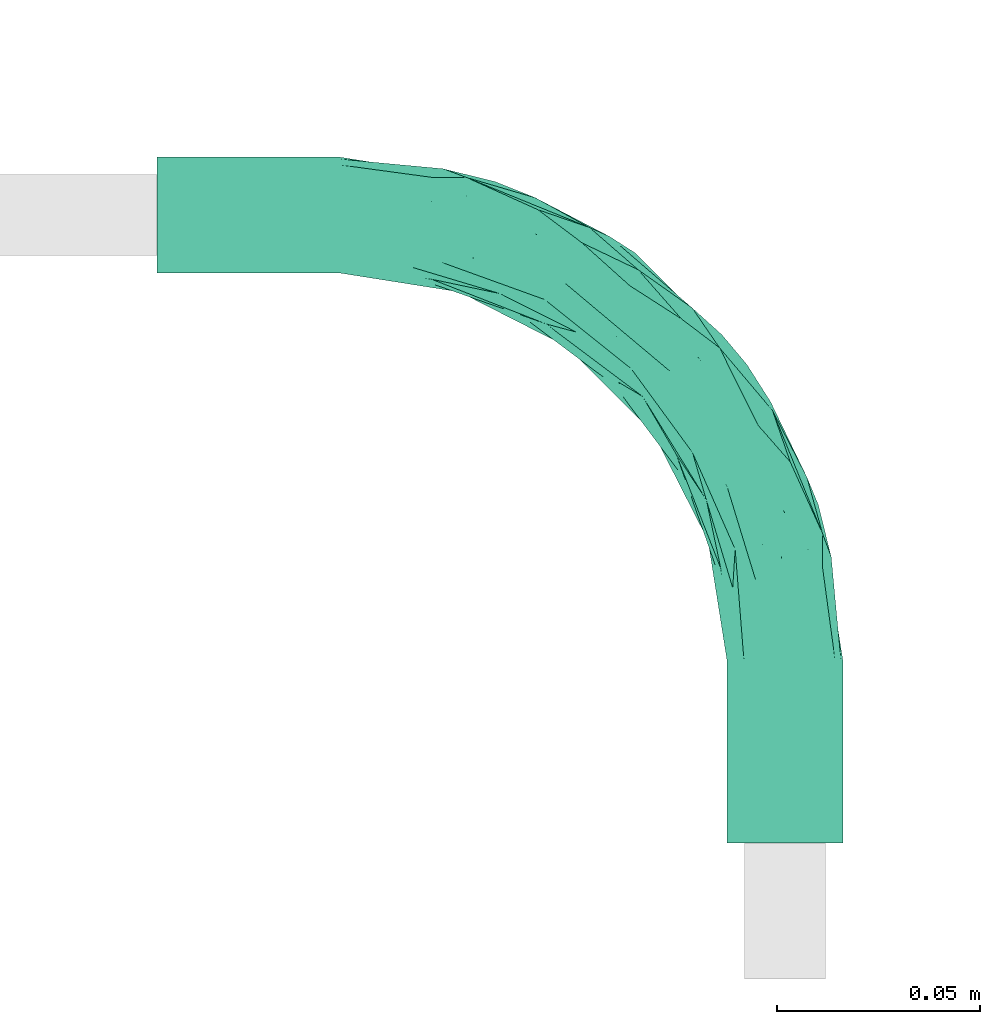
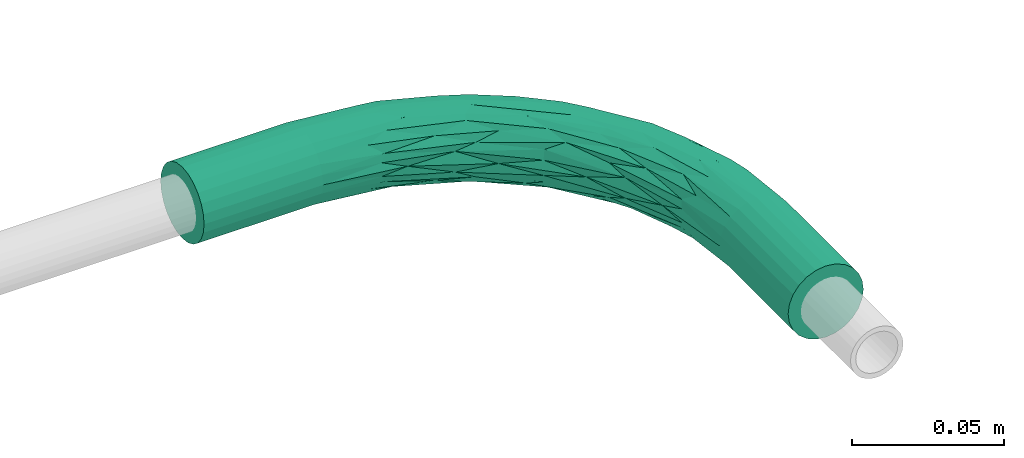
# One storey, part 6 of 51: 1 flow fitting.
"""IFC2X3 building model written with IfcOpenShell, lengths in millimetres."""

from ifc_helpers import new_model, entity, si_unit, converted_unit, derived_unit, direction, frame, origin_with_axes, place, context, subcontext, project, spatial, open_shell, surface_model, source, transform, mapped, type_object, element, save


model = new_model("IFC2X3")

# Units and contexts
model_context = context("Model", 3, precision=0.01, world=frame((0.0, 4.29681676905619e-09, 0.0)), true_north=direction((4.01073788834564e-13, 1.0)))
plan_context = context("Plan", 3, precision=0.01, world=frame((0.0, 4.29681676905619e-09, 0.0)), true_north=direction((4.01073788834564e-13, 1.0)))
body_context = subcontext(model_context, "Body", "Model", "MODEL_VIEW")
ifc_project = project(units=[converted_unit("PLANEANGLEUNIT", "DEGREE", entity("IfcPositiveLengthMeasure", 0.0174532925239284), si_unit("PLANEANGLEUNIT", "RADIAN"), dimensions=[0, 0, 0, 0, 0, 0, 0]), si_unit("AREAUNIT", "SQUARE_METRE"), si_unit("LENGTHUNIT", "METRE", prefix="MILLI"), si_unit("MASSUNIT", "GRAM", prefix="KILO"), si_unit("POWERUNIT", "WATT"), si_unit("PRESSUREUNIT", "PASCAL"), si_unit("FORCEUNIT", "NEWTON", prefix="KILO"), si_unit("ELECTRICVOLTAGEUNIT", "VOLT"), si_unit("ELECTRICCURRENTUNIT", "AMPERE"), si_unit("THERMODYNAMICTEMPERATUREUNIT", "DEGREE_CELSIUS"), si_unit("TIMEUNIT", "SECOND"), si_unit("VOLUMEUNIT", "CUBIC_METRE"), derived_unit("LINEARVELOCITYUNIT", [(si_unit("LENGTHUNIT", "METRE"), 1), (si_unit("TIMEUNIT", "SECOND"), -1)]), derived_unit("VOLUMETRICFLOWRATEUNIT", [(si_unit("VOLUMEUNIT", "CUBIC_METRE"), 1), (si_unit("TIMEUNIT", "SECOND"), -1)]), derived_unit("THERMALTRANSMITTANCEUNIT", [(si_unit("POWERUNIT", "WATT"), 1), (si_unit("THERMODYNAMICTEMPERATUREUNIT", "KELVIN"), -1), (si_unit("AREAUNIT", "SQUARE_METRE"), -1)]), derived_unit("SOUNDPRESSUREUNIT", [(si_unit("PRESSUREUNIT", "PASCAL"), 1)])], contexts=[model_context, plan_context])

# Site, building, storey
site_placement = place(None, frame((0.0, -4.29681676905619e-09, 0.0), z_axis=(0.0, 0.0, 1.0), x_axis=(1.0, 0.0, 0.0)))
site = spatial("IfcSite", under=ifc_project, at=site_placement, Name="ENGM", CompositionType="ELEMENT")
building_placement = place(site_placement, frame((0.0, 4.29681676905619e-09, 0.0), z_axis=(0.0, 0.0, 1.0), x_axis=(1.0, 0.0, 0.0)))
building = spatial("IfcBuilding", under=site, at=building_placement, Name="TI", CompositionType="ELEMENT")
storey_placement = place(building_placement, frame((0.0, 0.0, 210900.0), z_axis=(0.0, 0.0, 1.0), x_axis=(1.0, 0.0, 0.0)))
storey = spatial("IfcBuildingStorey", under=building, at=storey_placement, Name="Nivå F", CompositionType="ELEMENT", Elevation=210900.0)

# Flow fitting
cable_carrier_fitting_type = type_object("IfcCableCarrierFittingType", Name="Trekkerør, glatt bend", PredefinedType="BEND")
shared_shape = source(origin_with_axes(), body_context, "Body", "SurfaceModel", [
    surface_model("IfcShellBasedSurfaceModel", [(-154.55625, -13.78482, -3.69363), (-154.55625, 0.0, -14.27109), (-154.55625, -3.69363, -13.78482), (-154.55625, -12.35913, -7.13555), (-154.55625, -7.13555, -12.35913), (-154.55625, -10.09119, -10.09119), (-154.55625, 14.27109, 0.0), (-154.55625, 7.13555, -12.35913), (-154.55625, 12.35913, -7.13555), (-154.55625, 10.09119, -10.09119), (-154.55625, 3.69363, -13.78482), (-154.55625, 13.78482, -3.69363), (-154.55625, -14.27109, 0.0), (-154.55625, -13.78482, 3.69363), (-154.55625, 3.69363, 13.78482), (-154.55625, -7.13555, 12.35913), (-154.55625, -12.35913, 7.13555), (-154.55625, -10.09119, 10.09119), (-154.55625, 0.0, 14.27109), (-154.55625, -3.69363, 13.78482), (-154.55625, 12.35913, 7.13555), (-154.55625, 10.09119, 10.09119), (-154.55625, 13.78482, 3.69363), (-154.55625, 7.13555, 12.35913), (-109.53828, 13.78482, 3.69363), (-109.53828, 14.27109, 0.0), (-109.53828, 12.35913, 7.13555), (-109.53828, 7.13555, 12.35913), (-109.53828, 10.09119, 10.09119), (-109.53828, 3.69363, 13.78482), (-109.53828, 0.0, 14.27109), (-109.53828, -7.13555, 12.35913), (-109.53828, -3.69363, 13.78482), (-109.53828, -10.09119, 10.09119), (-109.53828, -13.78482, 3.69363), (-109.53828, -12.35913, 7.13555), (-109.53828, -14.27109, 0.0), (-109.53828, -13.78482, -3.69363), (-109.53828, -12.35913, -7.13555), (-109.53828, -7.13555, -12.35913), (-109.53828, -10.09119, -10.09119), (-109.53828, -3.69363, -13.78482), (-109.53828, 0.0, -14.27109), (-109.53828, 7.13555, -12.35913), (-109.53828, 3.69363, -13.78482), (-109.53828, 10.09119, -10.09119), (-109.53828, 13.78482, -3.69363), (-109.53828, 12.35913, -7.13555), (-5.52615, -80.75509, 14.17919), (-7.1534, -89.99414, 13.24855), (-3.69363, -109.53828, 13.78482), (-78.43143, 9.27777, 5.21969), (-86.74719, 9.26979, 8.53701), (-60.76988, 1.31586, 8.35584), (-28.15284, -38.55475, 14.18707), (-37.47603, -23.87443, 14.06701), (-54.57322, -16.38341, 14.20456), (-49.9274, -6.84288, 10.90618), (-78.33811, 4.70928, 11.16152), (-61.24691, -4.75102, 13.02092), (-84.10609, 11.40642, 2.49425), (-71.27908, 8.21143, 0.0), (-95.50078, 12.04777, 0.0), (-84.40829, -4.61635, 14.17552), (-6.52074, -51.84045, 11.43645), (-25.5172, -25.5172, 10.83717), (-21.30634, -35.06714, 12.98487), (-14.9351, -49.72791, 14.07022), (-22.8399, -22.8399, 5.72655), (-48.07555, -3.07814, 4.93607), (-36.13298, -13.4524, 8.61377), (-43.25505, -5.21821, 2.45459), (-61.42092, 4.26023, 2.69213), (-76.37759, -10.60152, 13.29307), (-84.26876, -11.72213, 11.45557), (-16.10152, -32.64981, 8.49548), (-91.7629, -12.84689, 8.81067), (-86.94002, 3.39666, 13.1113), (-78.89232, -2.16712, 14.11264), (-65.27277, -24.4813, 4.15685), (-80.0991, -18.9338, 0.0), (-53.54164, -32.46551, 0.0), (-87.03749, -15.77002, 5.64275), (-58.85951, -26.77111, 6.9074), (-70.11513, -19.34285, 8.96525), (-12.24312, -82.27842, 11.46622), (-10.09119, -109.53828, 10.09119), (-7.13555, -109.53828, 12.35913), (-88.43996, -16.36335, 2.74565), (3.69363, -109.53828, 13.78482), (7.13555, -109.53828, 12.35913), (-0.11486, -73.25678, 13.06442), (-41.06778, -41.06778, 6.49711), (-41.93843, -41.93843, 3.06688), (-12.35913, -109.53828, 7.13555), (-12.84689, -91.7629, 8.81067), (-3.51803, -45.96754, 2.3263), (-3.07814, -48.07555, 4.93607), (5.39094, -64.47541, 3.19158), (-23.06967, -23.06967, 0.0), (-36.76496, -9.37439, 0.0), (-0.81133, -84.32322, 14.11955), (0.0, -109.53828, 14.27109), (-41.69927, -29.72188, 13.44421), (13.78482, -109.53828, 3.69363), (9.27777, -78.43143, 5.21969), (12.35913, -109.53828, 7.13555), (-57.22502, -11.42573, 14.17543), (9.26979, -86.74719, 8.53701), (1.31586, -60.76988, 8.35584), (5.72038, -82.4285, 11.18319), (11.40642, -84.10609, 2.49425), (-59.15779, -20.7896, 12.14962), (-24.4813, -65.27277, 4.15685), (-32.46551, -53.54164, 0.0), (-18.9338, -80.0991, 0.0), (-14.27109, -109.53828, 0.0), (-16.36335, -88.43996, 2.74565), (-8.62571, -53.03293, 12.89354), (-15.77002, -87.03749, 5.64275), (-13.78482, -109.53828, 3.69363), (-35.02355, -44.66648, 9.39592), (-22.74629, -58.47709, 11.20332), (-37.83174, -37.83174, 11.72896), (-51.28798, -28.82677, 10.17947), (-14.20714, -66.91103, 13.32458), (10.09119, -109.53828, 10.09119), (12.04777, -95.50078, 0.0), (-26.77111, -58.85951, 6.9074), (-19.34285, -70.11513, 8.96525), (-14.02071, -58.08047, 14.23303), (-22.27171, -49.8428, 13.75381), (-38.19919, -17.37508, 12.43121), (-25.3167, -50.04426, 12.74411), (-58.12909, -18.65185, 13.32115), (-15.5265, -29.44086, 2.9254), (-54.02202, -0.58148, 0.0), (-9.37439, -36.76496, 0.0), (-0.58148, -54.02202, 0.0), (8.21143, -71.27908, 0.0), (14.27109, -109.53828, 0.0), (-82.27842, -12.24312, -11.46622), (-38.55475, -28.15284, -14.18707), (-23.87443, -37.47603, -14.06701), (-16.38341, -54.57322, -14.20456), (-91.7629, -12.84689, -8.81067), (-24.4813, -65.27277, -4.15685), (-87.03749, -15.77002, -5.64275), (-65.27277, -24.4813, -4.15685), (-88.43996, -16.36335, -2.74565), (9.27777, -78.43143, -5.21969), (13.78482, -109.53828, -3.69363), (12.35913, -109.53828, -7.13555), (-61.42092, 4.26023, -2.69213), (-84.10609, 11.40642, -2.49425), (-41.93843, -41.93843, -3.06688), (0.0, -109.53828, -14.27109), (-3.69363, -109.53828, -13.78482), (-4.61635, -84.40829, -14.17552), (-60.76988, 1.31586, -8.35584), (-78.43143, 9.27777, -5.21969), (-48.07555, -3.07814, -4.93607), (-51.84045, -6.52074, -11.43645), (-82.4285, 5.72038, -11.18319), (-86.74719, 9.26979, -8.53701), (-4.75102, -61.24691, -13.02092), (4.70928, -78.33811, -11.16152), (3.39666, -86.94002, -13.1113), (-15.5265, -29.44086, -2.9254), (-3.51803, -45.96754, -2.3263), (-73.25678, -0.11486, -13.06442), (11.40642, -84.10609, -2.49425), (-84.32322, -0.81133, -14.11955), (-11.42573, -57.22502, -14.17543), (1.31586, -60.76988, -8.35584), (-3.07814, -48.07555, -4.93607), (-89.99414, -7.1534, -13.24855), (-10.60152, -76.37759, -13.29307), (-6.84288, -49.9274, -10.90618), (-2.16712, -78.89232, -14.11264), (-25.5172, -25.5172, -10.83717), (-13.4524, -36.13298, -8.61377), (-16.36335, -88.43996, -2.74565), (-13.78482, -109.53828, -3.69363), (3.69363, -109.53828, -13.78482), (-19.34285, -70.11513, -8.96525), (-15.77002, -87.03749, -5.64275), (-26.77111, -58.85951, -6.9074), (-12.35913, -109.53828, -7.13555), (-80.75509, -5.52615, -14.17919), (9.26979, -86.74719, -8.53701), (10.09119, -109.53828, -10.09119), (-11.72213, -84.26876, -11.45557), (-7.13555, -109.53828, -12.35913), (-10.09119, -109.53828, -10.09119), (-35.06714, -21.30634, -12.98487), (-32.64981, -16.10152, -8.49548), (-41.06778, -41.06777, -6.49711), (-29.72188, -41.69927, -13.44421), (7.13555, -109.53828, -12.35913), (-66.91103, -14.20714, -13.32458), (-58.47709, -22.74629, -11.20332), (-22.8399, -22.8399, -5.72655), (-49.72791, -14.9351, -14.07022), (-37.83174, -37.83174, -11.72896), (-28.82677, -51.28798, -10.17947), (-44.66648, -35.02355, -9.39592), (-20.7896, -59.15779, -12.14962), (-43.25505, -5.21821, -2.45459), (-53.03293, -8.62571, -12.89354), (-12.84689, -91.7629, -8.81067), (-58.85951, -26.77111, -6.9074), (-70.11513, -19.34285, -8.96525), (-58.08047, -14.02071, -14.23303), (-49.8428, -22.27171, -13.75381), (-17.37508, -38.19919, -12.43121), (-50.04426, -25.3167, -12.74411), (-18.65185, -58.12909, -13.32115), (5.39094, -64.47541, -3.19158), (0.0, -154.55625, -14.27109), (13.78482, -154.55625, -3.69363), (-3.69363, -154.55625, -13.78482), (-7.13555, -154.55625, -12.35913), (-12.35913, -154.55625, -7.13555), (14.27109, -154.55625, 0.0), (-10.09119, -154.55625, -10.09119), (-14.27109, -154.55625, 0.0), (10.09119, -154.55625, -10.09119), (12.35913, -154.55625, -7.13555), (7.13555, -154.55625, -12.35913), (3.69363, -154.55625, -13.78482), (-13.78482, -154.55625, -3.69363), (-13.78482, -154.55625, 3.69363), (13.78482, -154.55625, 3.69363), (-12.35913, -154.55625, 7.13555), (-7.13555, -154.55625, 12.35913), (-10.09119, -154.55625, 10.09119), (-3.69363, -154.55625, 13.78482), (0.0, -154.55625, 14.27109), (12.35913, -154.55625, 7.13555), (10.09119, -154.55625, 10.09119), (3.69363, -154.55625, 13.78482), (7.13555, -154.55625, 12.35913)], [open_shell([[[0, 1, 2]], [[3, 2, 4]], [[3, 0, 2]], [[3, 4, 5]], [[1, 0, 6]], [[7, 8, 9]], [[7, 10, 1]], [[7, 11, 8]], [[7, 1, 11]], [[6, 11, 1]], [[0, 12, 6]], [[6, 13, 14]], [[15, 13, 16]], [[14, 13, 15]], [[15, 16, 17]], [[18, 15, 19]], [[20, 14, 21]], [[22, 6, 20]], [[21, 14, 23]], [[14, 20, 6]], [[15, 18, 14]], [[6, 12, 13]], [[24, 25, 22]], [[24, 20, 26]], [[27, 28, 23]], [[21, 28, 26]], [[29, 27, 14]], [[6, 22, 25]], [[22, 20, 24]], [[20, 21, 26]], [[21, 23, 28]], [[27, 23, 14]], [[14, 18, 29]], [[18, 30, 29]], [[31, 32, 15]], [[31, 17, 33]], [[34, 35, 13]], [[16, 35, 33]], [[36, 34, 12]], [[30, 19, 32]], [[19, 15, 32]], [[18, 19, 30]], [[15, 17, 31]], [[17, 16, 33]], [[35, 16, 13]], [[13, 12, 34]], [[37, 36, 0]], [[37, 3, 38]], [[39, 40, 4]], [[5, 40, 38]], [[41, 39, 2]], [[12, 0, 36]], [[0, 3, 37]], [[3, 5, 38]], [[5, 4, 40]], [[39, 4, 2]], [[2, 1, 41]], [[1, 42, 41]], [[43, 44, 7]], [[43, 9, 45]], [[46, 47, 11]], [[8, 47, 45]], [[25, 46, 6]], [[42, 10, 44]], [[10, 7, 44]], [[1, 10, 42]], [[7, 9, 43]], [[9, 8, 45]], [[47, 8, 11]], [[11, 6, 46]], [[48, 49, 50]], [[51, 52, 53]], [[54, 55, 56]], [[57, 58, 59]], [[60, 61, 62]], [[30, 32, 63]], [[28, 27, 58]], [[60, 62, 24]], [[64, 65, 66]], [[58, 52, 28]], [[66, 55, 67]], [[68, 69, 70]], [[69, 71, 72]], [[31, 73, 32]], [[51, 24, 26]], [[74, 31, 33]], [[70, 65, 75]], [[76, 33, 35]], [[77, 29, 78]], [[53, 69, 51]], [[79, 80, 81]], [[82, 83, 84]], [[85, 86, 87]], [[88, 34, 36]], [[82, 35, 34]], [[89, 90, 91]], [[92, 79, 93]], [[94, 86, 95]], [[29, 77, 27]], [[96, 97, 98]], [[71, 99, 100]], [[30, 78, 29]], [[101, 48, 102]], [[53, 58, 57]], [[103, 54, 56]], [[89, 101, 102]], [[104, 105, 106]], [[50, 49, 87]], [[55, 59, 107]], [[108, 106, 105]], [[109, 105, 97]], [[90, 110, 91]], [[57, 65, 70]], [[105, 104, 111]], [[73, 56, 63]], [[74, 84, 112]], [[113, 114, 115]], [[114, 113, 93]], [[30, 63, 78]], [[116, 117, 115]], [[102, 48, 50]], [[52, 26, 28]], [[118, 64, 66]], [[119, 120, 94]], [[119, 113, 117]], [[93, 81, 114]], [[121, 122, 123]], [[123, 124, 121]], [[85, 125, 122]], [[95, 86, 85]], [[64, 110, 109]], [[73, 31, 74]], [[126, 110, 90]], [[108, 126, 106]], [[59, 58, 77]], [[103, 112, 123]], [[109, 97, 75]], [[127, 111, 104]], [[34, 88, 82]], [[79, 92, 83]], [[113, 128, 92]], [[129, 119, 95]], [[130, 131, 125]], [[91, 67, 101]], [[129, 85, 122]], [[125, 85, 49]], [[91, 110, 64]], [[109, 110, 108]], [[66, 67, 118]], [[75, 65, 64]], [[73, 74, 112]], [[84, 74, 76]], [[107, 78, 63]], [[63, 32, 73]], [[130, 48, 101]], [[101, 89, 91]], [[55, 54, 67]], [[57, 132, 65]], [[56, 55, 107]], [[59, 55, 132]], [[125, 48, 130]], [[133, 122, 125]], [[103, 56, 134]], [[124, 123, 112]], [[73, 112, 134]], [[125, 131, 133]], [[72, 60, 51]], [[71, 69, 68]], [[135, 68, 97]], [[96, 135, 97]], [[76, 35, 82]], [[80, 79, 88]], [[120, 119, 117]], [[128, 113, 119]], [[81, 93, 79]], [[92, 93, 113]], [[27, 77, 58]], [[59, 77, 78]], [[26, 52, 51]], [[53, 52, 58]], [[126, 108, 110]], [[109, 108, 105]], [[53, 57, 70]], [[132, 66, 65]], [[53, 70, 69]], [[68, 70, 75]], [[68, 75, 97]], [[109, 75, 64]], [[87, 49, 85]], [[125, 49, 48]], [[121, 128, 129]], [[133, 123, 122]], [[122, 121, 129]], [[121, 124, 83]], [[92, 121, 83]], [[84, 124, 112]], [[133, 103, 123]], [[54, 103, 131]], [[133, 131, 103]], [[130, 54, 131]], [[130, 67, 54]], [[67, 130, 101]], [[82, 88, 79]], [[80, 88, 36]], [[120, 117, 116]], [[115, 117, 113]], [[66, 132, 55]], [[132, 57, 59]], [[62, 25, 24]], [[61, 60, 72]], [[51, 60, 24]], [[71, 100, 136]], [[69, 72, 51]], [[136, 72, 71]], [[99, 135, 137]], [[71, 135, 99]], [[96, 137, 135]], [[68, 135, 71]], [[138, 137, 96]], [[98, 111, 139]], [[136, 61, 72]], [[139, 138, 98]], [[139, 111, 127]], [[104, 140, 127]], [[105, 111, 98]], [[105, 98, 97]], [[138, 96, 98]], [[33, 76, 74]], [[84, 76, 82]], [[94, 95, 119]], [[129, 95, 85]], [[79, 83, 82]], [[84, 83, 124]], [[92, 128, 121]], [[129, 128, 119]], [[118, 91, 64]], [[91, 118, 67]], [[56, 107, 63]], [[78, 107, 59]], [[73, 134, 56]], [[134, 112, 103]], [[39, 141, 40]], [[142, 143, 144]], [[145, 40, 141]], [[146, 115, 114]], [[147, 148, 149]], [[150, 151, 152]], [[36, 149, 80]], [[153, 154, 61]], [[148, 81, 80]], [[81, 148, 155]], [[156, 157, 158]], [[38, 147, 37]], [[159, 160, 161]], [[162, 163, 159]], [[164, 47, 160]], [[165, 166, 167]], [[160, 46, 154]], [[168, 137, 169]], [[170, 43, 163]], [[171, 127, 151]], [[42, 44, 172]], [[143, 165, 173]], [[46, 160, 47]], [[170, 44, 43]], [[174, 175, 150]], [[47, 164, 45]], [[176, 39, 41]], [[177, 144, 158]], [[174, 166, 178]], [[156, 158, 179]], [[155, 114, 81]], [[178, 180, 181]], [[182, 183, 116]], [[156, 179, 184]], [[185, 186, 187]], [[183, 186, 188]], [[189, 176, 41]], [[190, 152, 191]], [[192, 193, 194]], [[162, 180, 195]], [[179, 167, 184]], [[45, 163, 43]], [[181, 180, 196]], [[155, 197, 146]], [[198, 142, 144]], [[199, 184, 167]], [[190, 191, 166]], [[141, 200, 201]], [[193, 177, 157]], [[181, 202, 175]], [[199, 166, 191]], [[203, 195, 143]], [[165, 178, 166]], [[204, 205, 206]], [[139, 127, 171]], [[42, 189, 41]], [[198, 207, 204]], [[190, 174, 150]], [[177, 193, 192]], [[168, 202, 208]], [[206, 201, 204]], [[189, 42, 172]], [[209, 162, 195]], [[194, 188, 210]], [[192, 185, 207]], [[38, 40, 145]], [[159, 161, 196]], [[62, 154, 46]], [[183, 182, 186]], [[146, 197, 187]], [[148, 211, 197]], [[212, 147, 145]], [[213, 214, 200]], [[170, 203, 172]], [[212, 141, 201]], [[200, 141, 176]], [[170, 163, 162]], [[159, 163, 164]], [[195, 203, 209]], [[196, 180, 162]], [[177, 192, 207]], [[185, 192, 210]], [[173, 179, 158]], [[158, 157, 177]], [[213, 189, 172]], [[172, 44, 170]], [[143, 142, 203]], [[178, 215, 180]], [[144, 143, 173]], [[165, 143, 215]], [[200, 189, 213]], [[216, 201, 200]], [[198, 144, 217]], [[205, 204, 207]], [[177, 207, 217]], [[200, 214, 216]], [[218, 171, 150]], [[168, 175, 202]], [[168, 208, 99]], [[153, 136, 208]], [[210, 188, 186]], [[115, 146, 182]], [[37, 147, 149]], [[211, 148, 147]], [[114, 155, 146]], [[197, 155, 148]], [[199, 167, 166]], [[165, 167, 179]], [[152, 190, 150]], [[174, 190, 166]], [[45, 164, 163]], [[159, 164, 160]], [[174, 178, 181]], [[215, 195, 180]], [[174, 181, 175]], [[202, 181, 196]], [[202, 196, 161]], [[159, 196, 162]], [[39, 176, 141]], [[200, 176, 189]], [[206, 211, 212]], [[216, 204, 201]], [[201, 206, 212]], [[206, 205, 187]], [[197, 206, 187]], [[185, 205, 207]], [[216, 198, 204]], [[142, 198, 214]], [[216, 214, 198]], [[213, 142, 214]], [[213, 203, 142]], [[203, 213, 172]], [[186, 182, 146]], [[115, 182, 116]], [[37, 149, 36]], [[80, 149, 148]], [[195, 215, 143]], [[215, 178, 165]], [[61, 154, 62]], [[46, 25, 62]], [[161, 160, 153]], [[154, 153, 160]], [[161, 153, 208]], [[161, 208, 202]], [[127, 140, 151]], [[137, 168, 99]], [[99, 208, 100]], [[175, 168, 169]], [[150, 175, 218]], [[169, 138, 218]], [[100, 208, 136]], [[169, 137, 138]], [[153, 61, 136]], [[218, 138, 139]], [[150, 171, 151]], [[171, 218, 139]], [[169, 218, 175]], [[194, 210, 192]], [[185, 210, 186]], [[38, 145, 147]], [[212, 145, 141]], [[146, 187, 186]], [[185, 187, 205]], [[197, 211, 206]], [[212, 211, 147]], [[209, 170, 162]], [[170, 209, 203]], [[144, 173, 158]], [[179, 173, 165]], [[177, 217, 144]], [[217, 207, 198]], [[219, 220, 221]], [[222, 221, 223]], [[224, 223, 221]], [[225, 222, 223]], [[224, 226, 223]], [[227, 228, 229]], [[219, 230, 229]], [[228, 220, 229]], [[220, 219, 229]], [[221, 220, 224]], [[226, 231, 223]], [[232, 224, 233]], [[234, 232, 235]], [[235, 232, 233]], [[236, 234, 235]], [[237, 235, 238]], [[239, 240, 233]], [[241, 233, 240]], [[242, 241, 240]], [[241, 235, 233]], [[241, 238, 235]], [[226, 224, 232]], [[233, 224, 104]], [[233, 106, 239]], [[242, 240, 90]], [[126, 240, 239]], [[241, 242, 89]], [[140, 104, 224]], [[104, 106, 233]], [[106, 126, 239]], [[126, 90, 240]], [[242, 90, 89]], [[89, 102, 241]], [[102, 238, 241]], [[235, 237, 87]], [[235, 86, 236]], [[232, 234, 120]], [[94, 234, 236]], [[226, 232, 116]], [[238, 50, 237]], [[50, 87, 237]], [[102, 50, 238]], [[87, 86, 235]], [[86, 94, 236]], [[234, 94, 120]], [[120, 116, 232]], [[231, 226, 183]], [[231, 188, 223]], [[222, 225, 193]], [[194, 225, 223]], [[221, 222, 157]], [[116, 183, 226]], [[183, 188, 231]], [[188, 194, 223]], [[194, 193, 225]], [[222, 193, 157]], [[157, 156, 221]], [[156, 219, 221]], [[229, 230, 199]], [[229, 191, 227]], [[220, 228, 151]], [[152, 228, 227]], [[224, 220, 140]], [[219, 184, 230]], [[184, 199, 230]], [[156, 184, 219]], [[199, 191, 229]], [[191, 152, 227]], [[228, 152, 151]], [[151, 140, 220]]])]),
])
flow_fitting_placement = place(storey_placement, frame((611786.83926, 690287.68309, -110.0), z_axis=(0.0, 0.0, 1.0), x_axis=(1.0, 0.0, 0.0)))
element("IfcFlowFitting", 1, at=flow_fitting_placement, inside=storey, type_object=cable_carrier_fitting_type, Name="Trekkerør, glatt bend", context=body_context, shape_type="MappedRepresentation", body=[
    mapped(shared_shape, transform((0.0, 0.0, 0.0), scale=1.0)),
])

save(model, "model.ifc")
